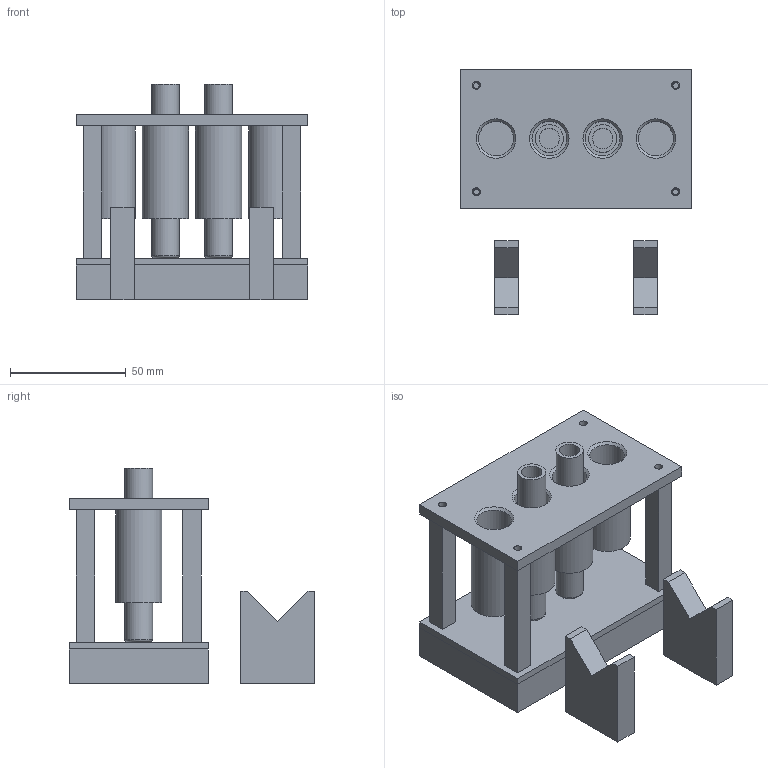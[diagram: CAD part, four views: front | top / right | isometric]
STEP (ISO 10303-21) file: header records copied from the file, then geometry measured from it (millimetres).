
FILE_DESCRIPTION(('Open CASCADE Model'),'2;1');
FILE_NAME('Open CASCADE Shape Model','2026-10-21T17:23:58',('Author'),( 'Open CASCADE'),'Open CASCADE STEP processor 7.9','Open CASCADE 7.9' ,'Unknown');
FILE_SCHEMA(('AUTOMOTIVE_DESIGN { 1 0 10303 214 1 1 1 1 }'));
Length unit declared in the file: millimetre
Products named in the file (8): P05_illustrative; rack_weight_base_0; rack_weight_lid_1; rack_guide_15_2; printed_tube_12x75_3; printed_tube_12x75_4; tube_v_rest_5; tube_v_rest_6
Assembly tree (7 placements, depth 2):
  P05_illustrative
    rack_weight_base_0
    rack_weight_lid_1
    rack_guide_15_2
    printed_tube_12x75_3
    printed_tube_12x75_4
    tube_v_rest_5
    tube_v_rest_6
Bounding box: 100 x 106 x 93 mm (x, y, z)
Volume: 147144.4 mm3; surface area: 94699 mm2
Topology: 7 solids, 7 shells, 130 faces, 282 edges, 186 vertices
Faces by surface type: plane 92, cylinder 32, cone 4, torus 2
Full cylindrical faces by diameter (mm): 2.5 x4, 3.4 x8, 8.8 x2, 12 x2, 15 x4, 20 x4
Entity records: 7542 total; most frequent: CARTESIAN_POINT 1398, DIRECTION 1156, LINE 710, VECTOR 710, ORIENTED_EDGE 564, PCURVE 564, DEFINITIONAL_REPRESENTATION 564, EDGE_CURVE 282
